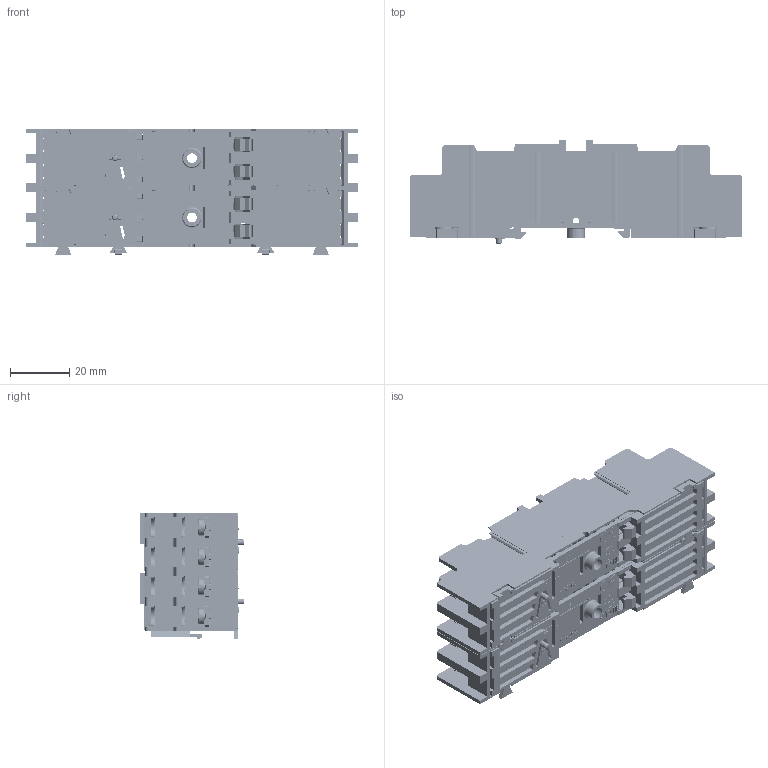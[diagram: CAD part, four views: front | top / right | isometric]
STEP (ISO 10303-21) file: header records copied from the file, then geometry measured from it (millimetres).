
FILE_DESCRIPTION (( 'STEP AP203' ), '1' );
FILE_NAME ('FN DE IP20.STEP', '2018-10-31T11:58:32', ( 'arteche' ), ( '' ), 'SwSTEP 2.0', 'SolidWorks 2017', '' );
FILE_SCHEMA (( 'CONFIG_CONTROL_DESIGN' ));
Length unit declared in the file: millimetre
Products named in the file (10): 527570147_527570147 PINZA DE LARGA OP; 527500193; 418640801; FN DE IP20; 418640900_BASE DE INFERIOR PLUS; 527570949_527570949 PINZA DE CORTA IP10; 578609059; 584010045_TUERCA CUADRADA 7X7X2 M.3; 527500094
Assembly tree (26 placements, depth 3):
  FN DE IP20
    418640801
    418640900_BASE DE INFERIOR PLUS  x2
    527500094  x8
      527570949_527570949 PINZA DE CORTA IP10
      578609059
      584010045_TUERCA CUADRADA 7X7X2 M.3
    527500193  x8
      527570147_527570147 PINZA DE LARGA OP
      578609059
      584010045_TUERCA CUADRADA 7X7X2 M.3
    418640801
Bounding box: 112 x 35.1 x 42.8 mm (x, y, z)
Volume: 53207.4 mm3; surface area: 98310.1 mm2
Topology: 68 solids, 68 shells, 8797 faces, 23112 edges, 14472 vertices
Faces by surface type: plane 6395, cylinder 1382, bspline 616, cone 146, torus 130, sphere 128
Full cylindrical faces by diameter (mm): 2.15 x32, 2.35 x16, 2.786 x4, 3 x32, 3.1 x16, 3.284 x2, 4.08 x2, 4.3 x4, 5 x2, 5.5 x16, 6 x2
Entity records: 174519 total; most frequent: CARTESIAN_POINT 54233, ORIENTED_EDGE 26356, DIRECTION 21708, EDGE_CURVE 13178, LINE 10818, VECTOR 10818, VERTEX_POINT 8557, AXIS2_PLACEMENT_3D 5445
